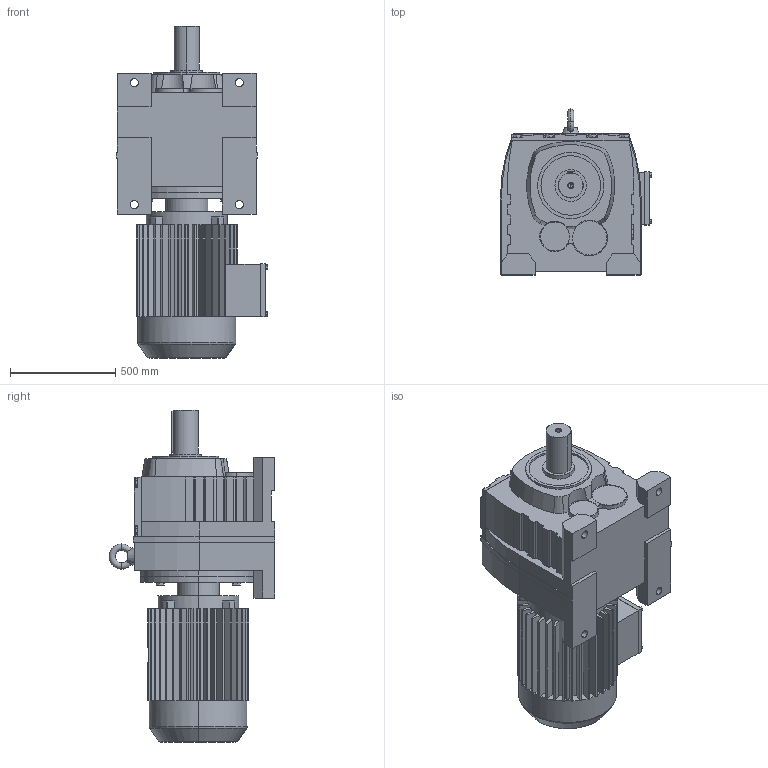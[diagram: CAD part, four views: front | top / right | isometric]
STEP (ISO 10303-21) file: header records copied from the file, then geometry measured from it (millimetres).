
FILE_DESCRIPTION(('Open CASCADE Model'),'2;1');
FILE_NAME('Open CASCADE Shape Model','2021-06-23T17:37:58',('Author'),( 'Open CASCADE'),'Open CASCADE STEP processor 6.3','Open CASCADE 6.3' ,'Unknown');
FILE_SCHEMA(('AUTOMOTIVE_DESIGN_CC2 { 1 2 10303 214 -1 1 5 4 }'));
Length unit declared in the file: millimetre
Products named in the file (3): 1_R167-Y250M; R37‵167_167.step; 萇儂_550_Y250M.step
Assembly tree (2 placements, depth 2):
  1_R167-Y250M
    R37‵167_167.step
    萇儂_550_Y250M.step
Bounding box: 720 x 790 x 1580 mm (x, y, z)
Volume: 329607942.9 mm3; surface area: 5893729 mm2
Topology: 2 solids, 2 shells, 735 faces, 1950 edges, 1261 vertices
Faces by surface type: plane 520, cylinder 185, cone 20, torus 10
Entity records: 51231 total; most frequent: CARTESIAN_POINT 14021, DIRECTION 6488, ORIENTED_EDGE 3896, PCURVE 3896, DEFINITIONAL_REPRESENTATION 3896, LINE 3635, VECTOR 3635, EDGE_CURVE 1948
